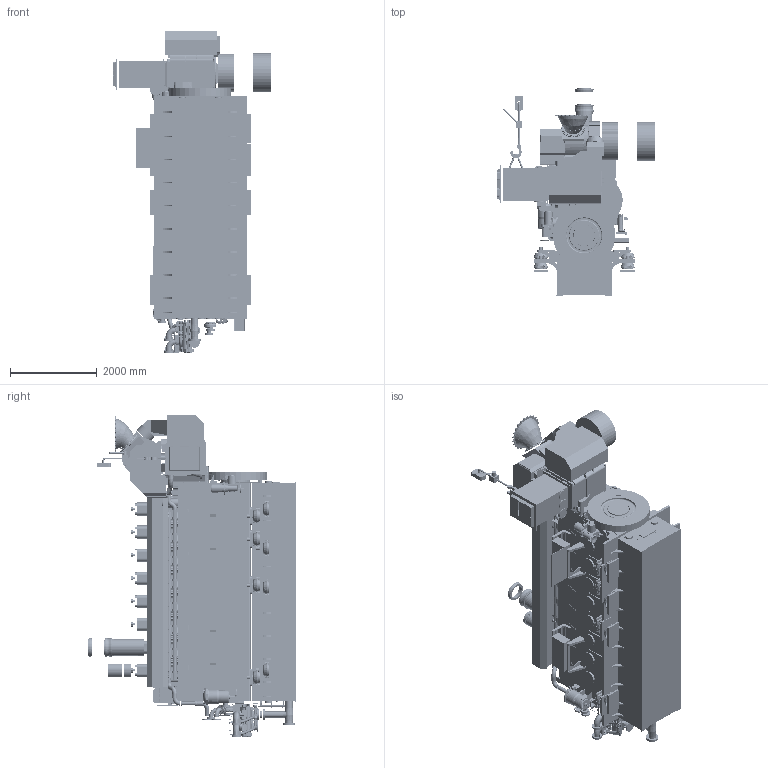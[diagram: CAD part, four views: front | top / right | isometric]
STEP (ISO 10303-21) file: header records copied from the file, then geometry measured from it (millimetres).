
FILE_DESCRIPTION((''),'2;1');
FILE_NAME('8M32E_FWS_STP_ASM','2015-11-17T',('petera8'),('Caterpillar Motoren GmbH & Co.KG'),'PRO/ENGINEER BY PARAMETRIC TECHNOLOGY CORPORATION, 2014200','PRO/ENGINEER BY PARAMETRIC TECHNOLOGY CORPORATION, 2014200','');
FILE_SCHEMA(('CONFIG_CONTROL_DESIGN'));
Products named in the file (7): 8M32E_FWS_STP_ENGINE_P01; 8M32E_FWS_STP_WET_SUMP_P01; 8M32E_FWS_STP_WET_SU_ELA_P01; 8M32E_FWS_STP_DRY_SUMP_P01; 8M32E_FWS_STP_RESI_MOUNT_P01; 8M32E_FWS_STP_REMOV_SPAC_P01; 8M32E_FWS_STP_ASM
Assembly tree (6 placements, depth 2):
  8M32E_FWS_STP_ASM
    8M32E_FWS_STP_ENGINE_P01
    8M32E_FWS_STP_WET_SUMP_P01
    8M32E_FWS_STP_WET_SU_ELA_P01
    8M32E_FWS_STP_DRY_SUMP_P01
    8M32E_FWS_STP_RESI_MOUNT_P01
    8M32E_FWS_STP_REMOV_SPAC_P01
Bounding box: 3655 x 4797 x 7414 mm (x, y, z)
Surface area: 246972245.8 mm2 (no closed solid volume)
Topology: 0 solids, 663 shells, 5546 faces, 22967 edges, 17565 vertices
Faces by surface type: plane 2808, cylinder 2159, cone 243, torus 136, extrusion 68, bspline 62, sphere 36, revolution 34
Entity records: 293778 total; most frequent: CARTESIAN_POINT 85857, DIRECTION 40241, ORIENTED_EDGE 33147, EDGE_CURVE 22900, VERTEX_POINT 17565, AXIS2_PLACEMENT_3D 13520, VECTOR 13167, LINE 13099
